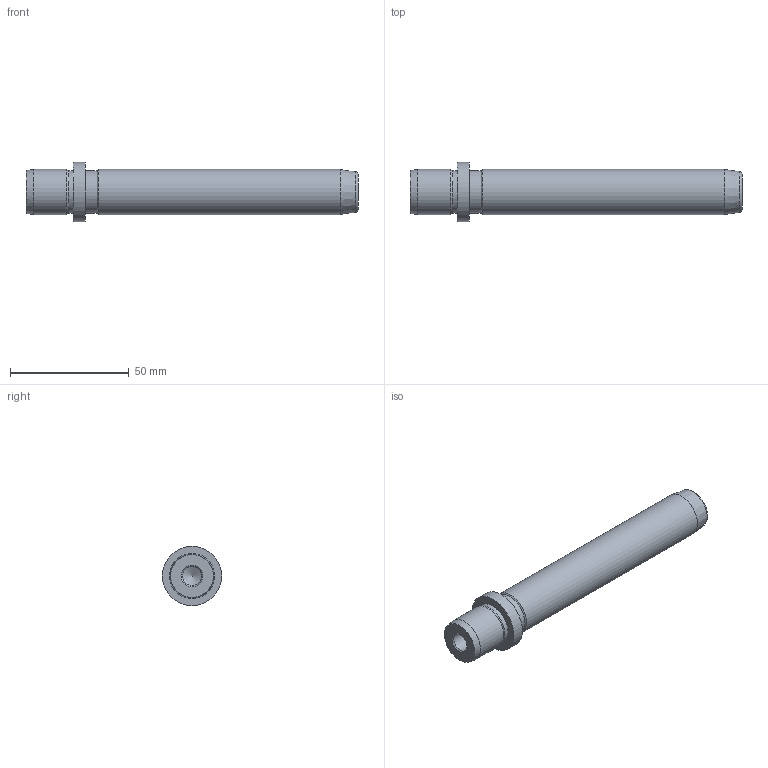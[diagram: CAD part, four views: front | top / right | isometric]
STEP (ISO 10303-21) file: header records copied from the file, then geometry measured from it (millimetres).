
FILE_DESCRIPTION(/* description */ ('Impex Ready, www.impex-ready.pl'),/* implementation_level */ '2;1');
FILE_NAME(/* name */ 'C:\Users\VIKKY\Nextcloud\SM\projekt 10 - części na stronę internetową\Pliki_3D_new\292 Słupy CE\292_CE_STEP\CE19120.ipt.step',/* time_stamp */ '2021-12-17T13:39:38+01:00',/* author */ ('SM'),/* organization */ (''),/* preprocessor_version */ 'ST-DEVELOPER v18.1',/* originating_system */ 'Autodesk Inventor 2021',/* authorisation */ '');
FILE_SCHEMA (('AUTOMOTIVE_DESIGN { 1 0 10303 214 3 1 1 }'));
Length unit declared in the file: millimetre
Products named in the file (1): CE19120
Bounding box: 140 x 25 x 25 mm (x, y, z)
Volume: 38880.3 mm3; surface area: 10010.2 mm2
Topology: 1 solids, 1 shells, 17 faces, 31 edges, 18 vertices
Faces by surface type: cone 6, cylinder 6, plane 4, torus 1
Full cylindrical faces by diameter (mm): 8 x1, 18 x2, 19 x2, 25 x1
Entity records: 508 total; most frequent: DIRECTION 84, CARTESIAN_POINT 66, ORIENTED_EDGE 60, AXIS2_PLACEMENT_3D 36, EDGE_CURVE 30, EDGE_LOOP 20, CIRCLE 18, VERTEX_POINT 18
